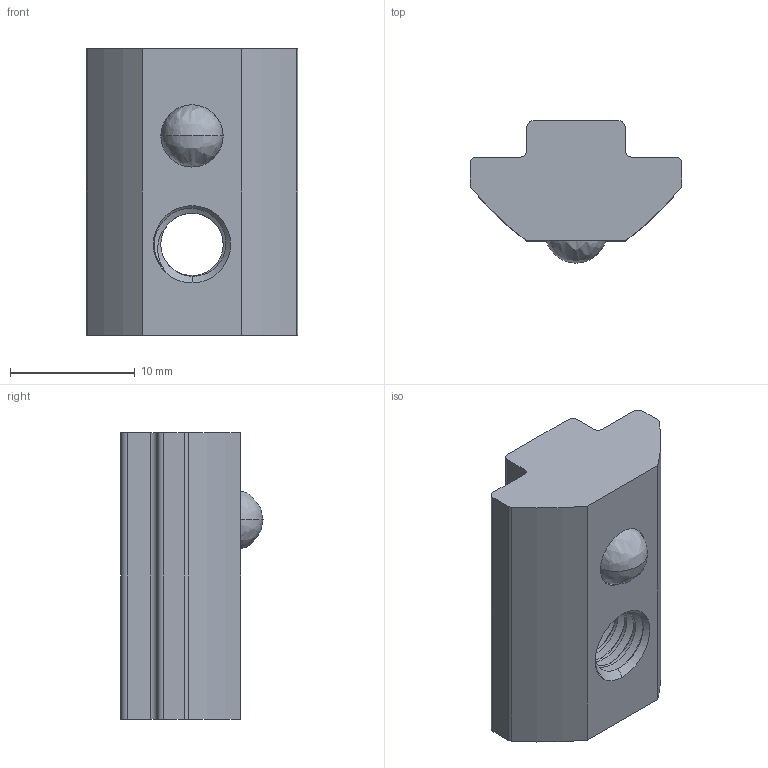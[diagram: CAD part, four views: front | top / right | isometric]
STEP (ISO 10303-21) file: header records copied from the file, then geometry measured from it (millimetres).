
FILE_DESCRIPTION (( 'STEP AP203' ), '1' );
FILE_NAME ('356050_Nutenstein 8 M6 schwer mit Steg und Federkugel.step', '2022-11-24T09:08:03', ( '' ), ( '' ), 'SwSTEP 2.0', 'SolidWorks 2021', '' );
FILE_SCHEMA (( 'CONFIG_CONTROL_DESIGN' ));
Length unit declared in the file: millimetre
Products named in the file (1): 356050_Nutenstein 8 M6 schwer mit Steg und Federkugel
Bounding box: 17 x 11.4 x 23 mm (x, y, z)
Volume: 2450.7 mm3; surface area: 1755.9 mm2
Topology: 3 solids, 3 shells, 62 faces, 168 edges, 107 vertices
Faces by surface type: cylinder 30, bspline 13, plane 13, cone 6
Entity records: 4381 total; most frequent: CARTESIAN_POINT 2923, ORIENTED_EDGE 328, DIRECTION 251, EDGE_CURVE 164, VERTEX_POINT 107, AXIS2_PLACEMENT_3D 96, EDGE_LOOP 67, ADVANCED_FACE 62
